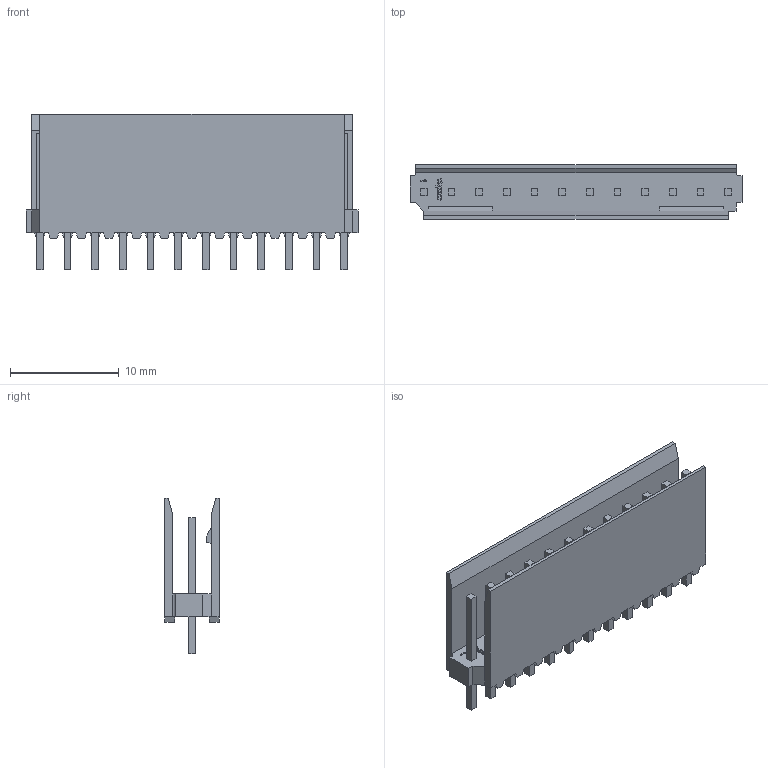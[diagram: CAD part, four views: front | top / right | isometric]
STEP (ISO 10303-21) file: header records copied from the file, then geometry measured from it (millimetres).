
FILE_DESCRIPTION(('STEP AP242'),'1');
FILE_NAME('1205990_1-281695-2.stp','2020-04-01T12:06:59',('TraceParts'),('TraceParts S.A.'),'Spatial InterOp 3D',' ',' ');
FILE_SCHEMA(('AP242_MANAGED_MODEL_BASED_3D_ENGINEERING_MIM_LF {1 0 10303 442 1 1 4}'));
Length unit declared in the file: millimetre
Products named in the file (1): 1205990_1-281695-2
Bounding box: 30.48 x 5 x 14.3 mm (x, y, z)
Volume: 724 mm3; surface area: 1814.2 mm2
Topology: 1 solids, 1 shells, 342 faces, 922 edges, 614 vertices
Faces by surface type: plane 302, cylinder 40
Entity records: 10585 total; most frequent: CARTESIAN_POINT 1879, ORIENTED_EDGE 1844, DIRECTION 1688, EDGE_CURVE 922, LINE 842, VECTOR 842, VERTEX_POINT 614, AXIS2_PLACEMENT_3D 423
